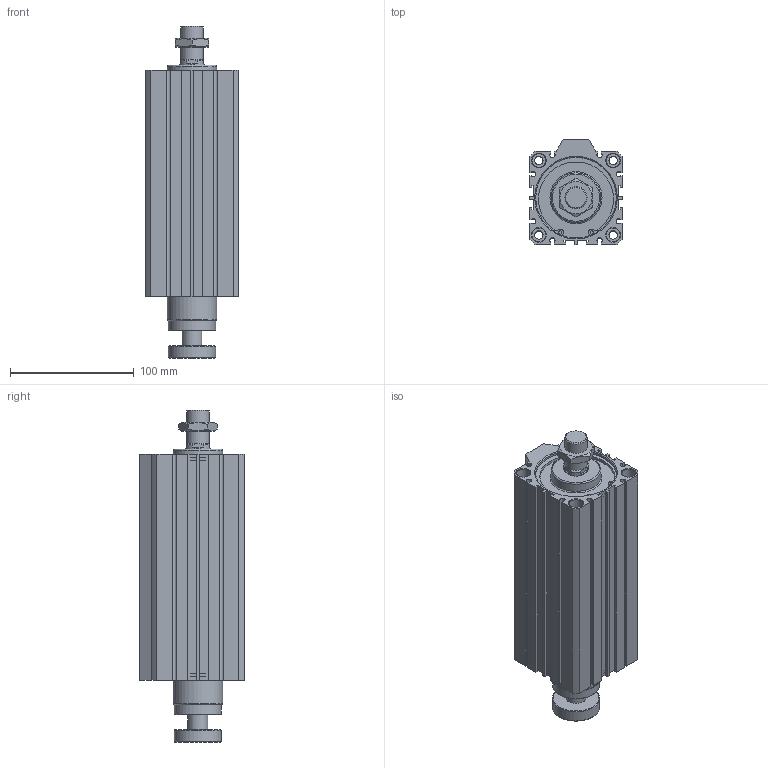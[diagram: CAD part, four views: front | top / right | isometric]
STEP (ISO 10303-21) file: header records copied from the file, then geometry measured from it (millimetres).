
FILE_DESCRIPTION((''),'2;1');
FILE_NAME('I:\3D電子目錄\氣缸\JDAR\JDAR-B\JDAR63-B\JDAR63x150-B.stp','2007-05-05T09:13:48',('662F206'),(''),'Autodesk Inventor 11','Autodesk Inventor 11','');
FILE_SCHEMA(('AUTOMOTIVE_DESIGN { 1 0 10303 214 1 1 1 1 }'));
Length unit declared in the file: millimetre
Products named in the file (3): JDAR63x150-B; JDAR63-B; R 形環 65
Assembly tree (3 placements, depth 2):
  JDAR63x150-B
    JDAR63-B
    R 形環 65  x2
Bounding box: 75 x 84.5 x 267.8 mm (x, y, z)
Volume: 1022517.2 mm3; surface area: 127309.5 mm2
Topology: 3 solids, 3 shells, 201 faces, 487 edges, 317 vertices
Faces by surface type: plane 117, cylinder 56, cone 24, bspline 2, torus 2
Full cylindrical faces by diameter (mm): 2.7 x4, 3 x2, 6.8 x4, 11 x8, 16 x1, 18 x2, 20 x1, 38 x2, 40 x2, 65 x4, 68 x2
Entity records: 5539 total; most frequent: CARTESIAN_POINT 1181, DIRECTION 894, ORIENTED_EDGE 794, EDGE_CURVE 397, AXIS2_PLACEMENT_3D 324, VERTEX_POINT 291, EDGE_LOOP 280, VECTOR 246
